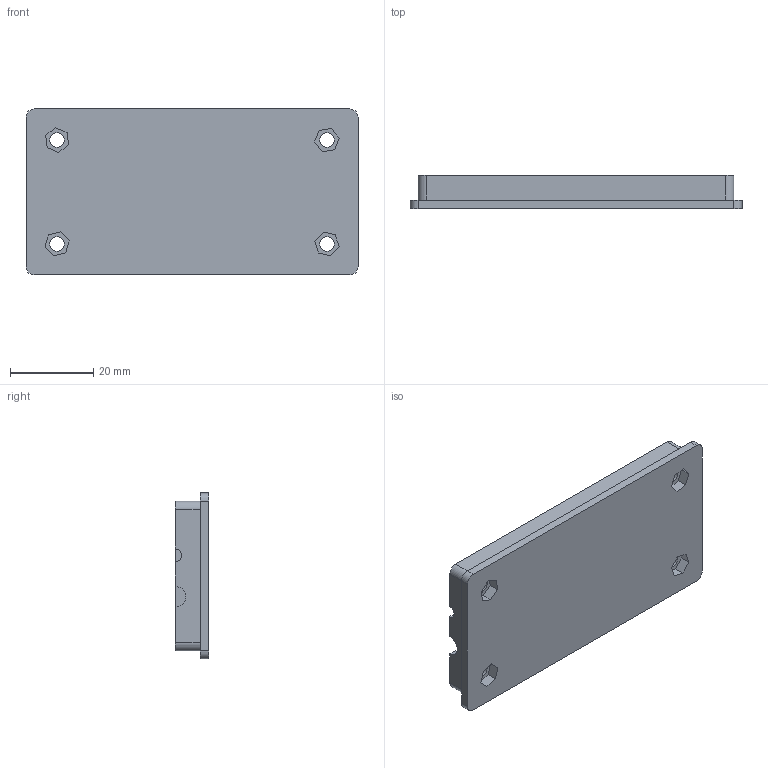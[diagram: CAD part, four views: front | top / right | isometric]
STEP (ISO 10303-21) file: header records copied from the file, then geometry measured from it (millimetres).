
FILE_DESCRIPTION(/* description */ (''),/* implementation_level */ '2;1');
FILE_NAME(/* name */ 'G:/NAS/EE/Projekte/Taster Selbsthaltung Xbox Adaptive Controller/Gehäuse/step export/Gehäuse Unterteil v7.step',/* time_stamp */ '2021-01-21T17:18:55+01:00',/* author */ (''),/* organization */ (''),/* preprocessor_version */ 'ST-DEVELOPER v18.1',/* originating_system */ 'Autodesk Translation Framework v9.7.1.1290',/* authorisation */ '');
FILE_SCHEMA (('AUTOMOTIVE_DESIGN { 1 0 10303 214 3 1 1 }'));
Length unit declared in the file: millimetre
Products named in the file (1): Gehäuse Unterteil
Bounding box: 80 x 8 x 40 mm (x, y, z)
Volume: 9364.1 mm3; surface area: 9583.1 mm2
Topology: 1 solids, 1 shells, 69 faces, 186 edges, 124 vertices
Faces by surface type: plane 50, cylinder 19
Full cylindrical faces by diameter (mm): 3.5 x4
Entity records: 2207 total; most frequent: CARTESIAN_POINT 380, ORIENTED_EDGE 372, DIRECTION 364, EDGE_CURVE 186, LINE 148, VECTOR 148, VERTEX_POINT 124, AXIS2_PLACEMENT_3D 108
